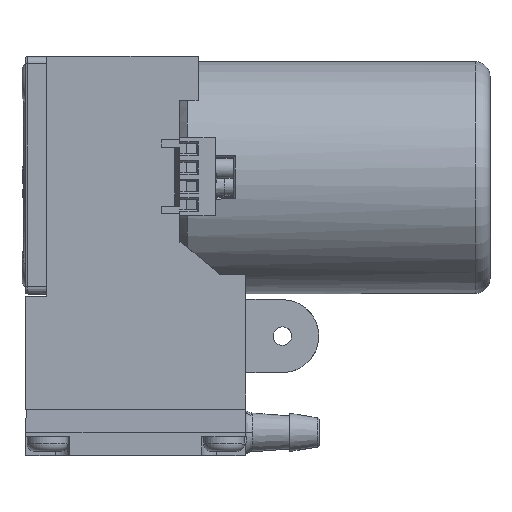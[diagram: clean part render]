
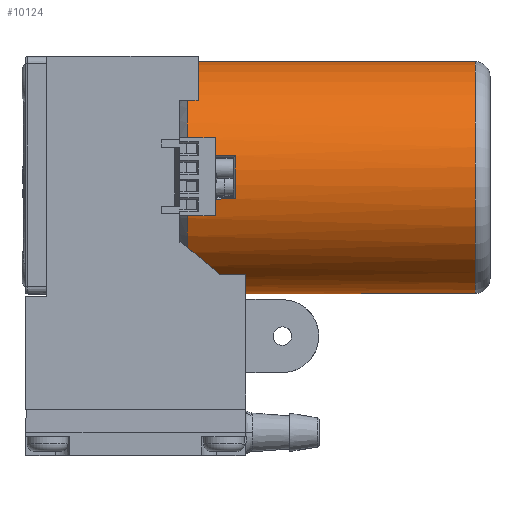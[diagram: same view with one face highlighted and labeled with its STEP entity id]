
A CAD part, top view. The second image highlights one B-rep face of the part: STEP entity #10124.
In plain terms, the highlighted cylindrical face has radius 15.85 mm (diameter 31.7 mm), a full revolution.
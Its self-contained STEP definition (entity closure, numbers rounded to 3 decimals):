
#2 = CIRCLE ( 'NONE', #24249, 15.85 ) ;
#1332 = CARTESIAN_POINT ( 'NONE',  ( 1., 0., 0. ) ) ;
#3522 = EDGE_LOOP ( 'NONE', ( #6578, #16231, #3674, #11988 ) ) ;
#3559 = CARTESIAN_POINT ( 'NONE',  ( 40.3, 11.208, 11.208 ) ) ;
#3599 = VERTEX_POINT ( 'NONE', #10009 ) ;
#3603 = FACE_OUTER_BOUND ( 'NONE', #31849, .T. ) ;
#3674 = ORIENTED_EDGE ( 'NONE', *, *, #5137, .F. ) ;
#4122 = EDGE_CURVE ( 'NONE', #26422, #22078, #29742, .T. ) ;
#4685 = DIRECTION ( 'NONE',  ( -1., 0., 0. ) ) ;
#5137 = EDGE_CURVE ( 'NONE', #26422, #3599, #2, .T. ) ;
#5995 = DIRECTION ( 'NONE',  ( -1., 0., 0. ) ) ;
#6578 = ORIENTED_EDGE ( 'NONE', *, *, #15509, .T. ) ;
#6768 = DIRECTION ( 'NONE',  ( -1., 0., 0. ) ) ;
#6858 = DIRECTION ( 'NONE',  ( 0., 0.707, 0.707 ) ) ;
#7343 = CIRCLE ( 'NONE', #22961, 15.85 ) ;
#7762 = CARTESIAN_POINT ( 'NONE',  ( -42.885, 2.954, 15.572 ) ) ;
#8049 = ORIENTED_EDGE ( 'NONE', *, *, #8219, .T. ) ;
#8219 = EDGE_CURVE ( 'NONE', #17061, #17061, #18867, .T. ) ;
#10009 = CARTESIAN_POINT ( 'NONE',  ( 1., -2.969, 15.569 ) ) ;
#10124 = ADVANCED_FACE ( 'NONE', ( #29784, #3603 ), #22273, .T. ) ;
#10163 = CARTESIAN_POINT ( 'NONE',  ( 7.6, -2.954, 15.572 ) ) ;
#10726 = CARTESIAN_POINT ( 'NONE',  ( 7.6, 0., 0. ) ) ;
#11812 = CARTESIAN_POINT ( 'NONE',  ( -42.885, 0., 0. ) ) ;
#11988 = ORIENTED_EDGE ( 'NONE', *, *, #4122, .T. ) ;
#15240 = DIRECTION ( 'NONE',  ( 1., 0., 0. ) ) ;
#15509 = EDGE_CURVE ( 'NONE', #22078, #21075, #7343, .T. ) ;
#15828 = DIRECTION ( 'NONE',  ( 0., 0.707, 0.707 ) ) ;
#15963 = VECTOR ( 'NONE', #15240, 1000. ) ;
#16231 = ORIENTED_EDGE ( 'NONE', *, *, #19587, .T. ) ;
#17061 = VERTEX_POINT ( 'NONE', #3559 ) ;
#17920 = AXIS2_PLACEMENT_3D ( 'NONE', #24686, #6768, #19584 ) ;
#18867 = CIRCLE ( 'NONE', #17920, 15.85 ) ;
#19584 = DIRECTION ( 'NONE',  ( 0., 0.707, 0.707 ) ) ;
#19587 = EDGE_CURVE ( 'NONE', #21075, #3599, #30352, .T. ) ;
#21075 = VERTEX_POINT ( 'NONE', #10163 ) ;
#22078 = VERTEX_POINT ( 'NONE', #32800 ) ;
#22273 = CYLINDRICAL_SURFACE ( 'NONE', #29399, 15.85 ) ;
#22961 = AXIS2_PLACEMENT_3D ( 'NONE', #10726, #25925, #15828 ) ;
#24249 = AXIS2_PLACEMENT_3D ( 'NONE', #1332, #31572, #31676 ) ;
#24686 = CARTESIAN_POINT ( 'NONE',  ( 40.3, 0., 0. ) ) ;
#25069 = CARTESIAN_POINT ( 'NONE',  ( -42.885, -2.954, 15.572 ) ) ;
#25925 = DIRECTION ( 'NONE',  ( 1., 0., 0. ) ) ;
#26422 = VERTEX_POINT ( 'NONE', #28877 ) ;
#28877 = CARTESIAN_POINT ( 'NONE',  ( 1., 2.961, 15.571 ) ) ;
#29399 = AXIS2_PLACEMENT_3D ( 'NONE', #11812, #5995, #6858 ) ;
#29564 = VECTOR ( 'NONE', #4685, 1000. ) ;
#29742 = LINE ( 'NONE', #7762, #15963 ) ;
#29784 = FACE_OUTER_BOUND ( 'NONE', #3522, .T. ) ;
#30352 = LINE ( 'NONE', #25069, #29564 ) ;
#31572 = DIRECTION ( 'NONE',  ( -1., 0., 0. ) ) ;
#31676 = DIRECTION ( 'NONE',  ( 0., 0.707, 0.707 ) ) ;
#31849 = EDGE_LOOP ( 'NONE', ( #8049 ) ) ;
#32800 = CARTESIAN_POINT ( 'NONE',  ( 7.6, 2.954, 15.572 ) ) ;
